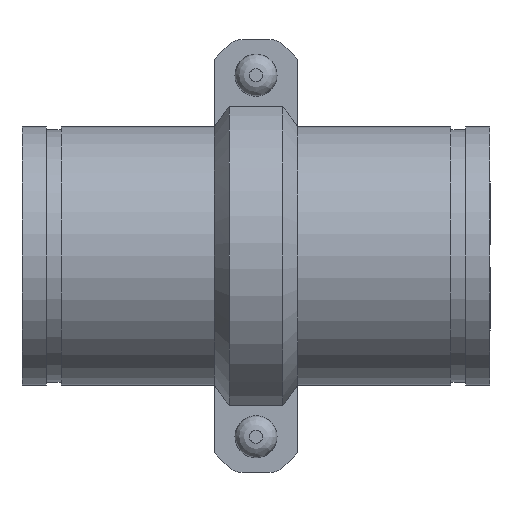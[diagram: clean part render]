
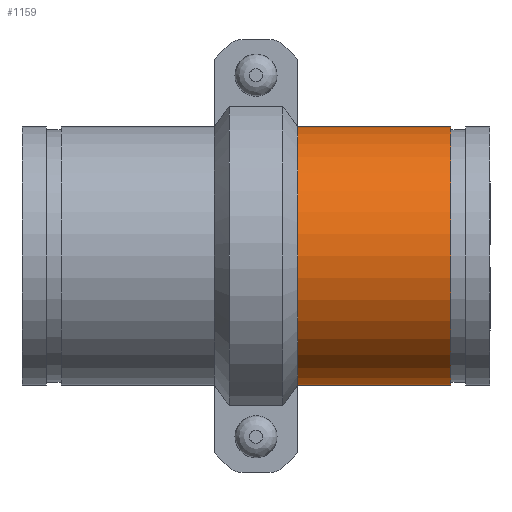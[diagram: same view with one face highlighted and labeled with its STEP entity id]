
A CAD part, front view. The second image highlights one B-rep face of the part: STEP entity #1159.
In plain terms, the highlighted cylindrical face has radius 84.138 mm (diameter 168.275 mm), a full revolution.
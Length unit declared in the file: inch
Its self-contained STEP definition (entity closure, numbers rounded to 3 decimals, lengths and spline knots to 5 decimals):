
#48=LINE('',#1822,#133);
#133=VECTOR('',#1481,3.3125);
#218=CYLINDRICAL_SURFACE('',#1314,3.3125);
#259=FACE_OUTER_BOUND('',#328,.T.);
#328=EDGE_LOOP('',(#765,#766,#767,#768,#769,#770));
#414=CIRCLE('',#1312,3.3125);
#415=CIRCLE('',#1313,3.3125);
#416=CIRCLE('',#1315,3.3125);
#417=CIRCLE('',#1316,3.3125);
#478=VERTEX_POINT('',#1813);
#479=VERTEX_POINT('',#1814);
#480=VERTEX_POINT('',#1818);
#481=VERTEX_POINT('',#1819);
#591=EDGE_CURVE('',#478,#479,#414,.T.);
#592=EDGE_CURVE('',#479,#478,#415,.T.);
#593=EDGE_CURVE('',#480,#481,#416,.T.);
#594=EDGE_CURVE('',#481,#480,#417,.T.);
#595=EDGE_CURVE('',#481,#479,#48,.T.);
#765=ORIENTED_EDGE('',*,*,#593,.F.);
#766=ORIENTED_EDGE('',*,*,#594,.F.);
#767=ORIENTED_EDGE('',*,*,#595,.T.);
#768=ORIENTED_EDGE('',*,*,#592,.T.);
#769=ORIENTED_EDGE('',*,*,#591,.T.);
#770=ORIENTED_EDGE('',*,*,#595,.F.);
#1159=ADVANCED_FACE('',(#259),#218,.T.);
#1312=AXIS2_PLACEMENT_3D('',#1815,#1471,#1472);
#1313=AXIS2_PLACEMENT_3D('',#1816,#1473,#1474);
#1314=AXIS2_PLACEMENT_3D('',#1817,#1475,#1476);
#1315=AXIS2_PLACEMENT_3D('',#1820,#1477,#1478);
#1316=AXIS2_PLACEMENT_3D('',#1821,#1479,#1480);
#1471=DIRECTION('center_axis',(-1.,0.,0.));
#1472=DIRECTION('ref_axis',(0.,0.,1.));
#1473=DIRECTION('center_axis',(-1.,0.,0.));
#1474=DIRECTION('ref_axis',(0.,0.,1.));
#1475=DIRECTION('center_axis',(-1.,0.,0.));
#1476=DIRECTION('ref_axis',(0.,1.,0.));
#1477=DIRECTION('center_axis',(-1.,0.,0.));
#1478=DIRECTION('ref_axis',(0.,0.,1.));
#1479=DIRECTION('center_axis',(-1.,0.,0.));
#1480=DIRECTION('ref_axis',(0.,0.,1.));
#1481=DIRECTION('',(1.,0.,0.));
#1813=CARTESIAN_POINT('',(1.9925,3.3125,0.));
#1814=CARTESIAN_POINT('',(1.9925,-3.3125,0.));
#1815=CARTESIAN_POINT('Origin',(1.9925,0.,0.));
#1816=CARTESIAN_POINT('Origin',(1.9925,0.,0.));
#1817=CARTESIAN_POINT('Origin',(0.,0.,
0.));
#1818=CARTESIAN_POINT('',(-1.9925,3.3125,0.));
#1819=CARTESIAN_POINT('',(-1.9925,-3.3125,0.));
#1820=CARTESIAN_POINT('Origin',(-1.9925,0.,0.));
#1821=CARTESIAN_POINT('Origin',(-1.9925,0.,0.));
#1822=CARTESIAN_POINT('',(0.,-3.3125,0.));
